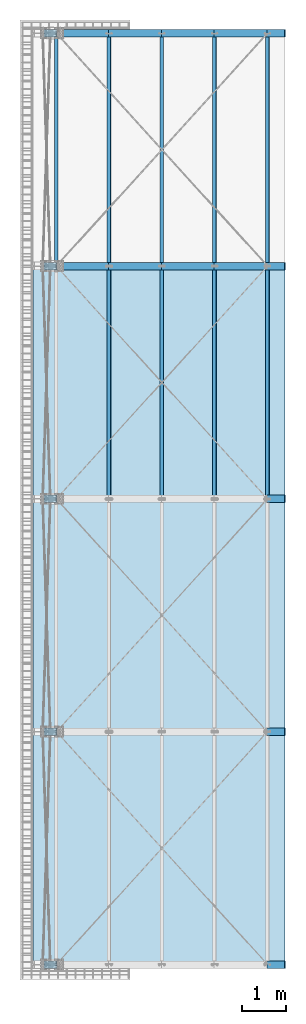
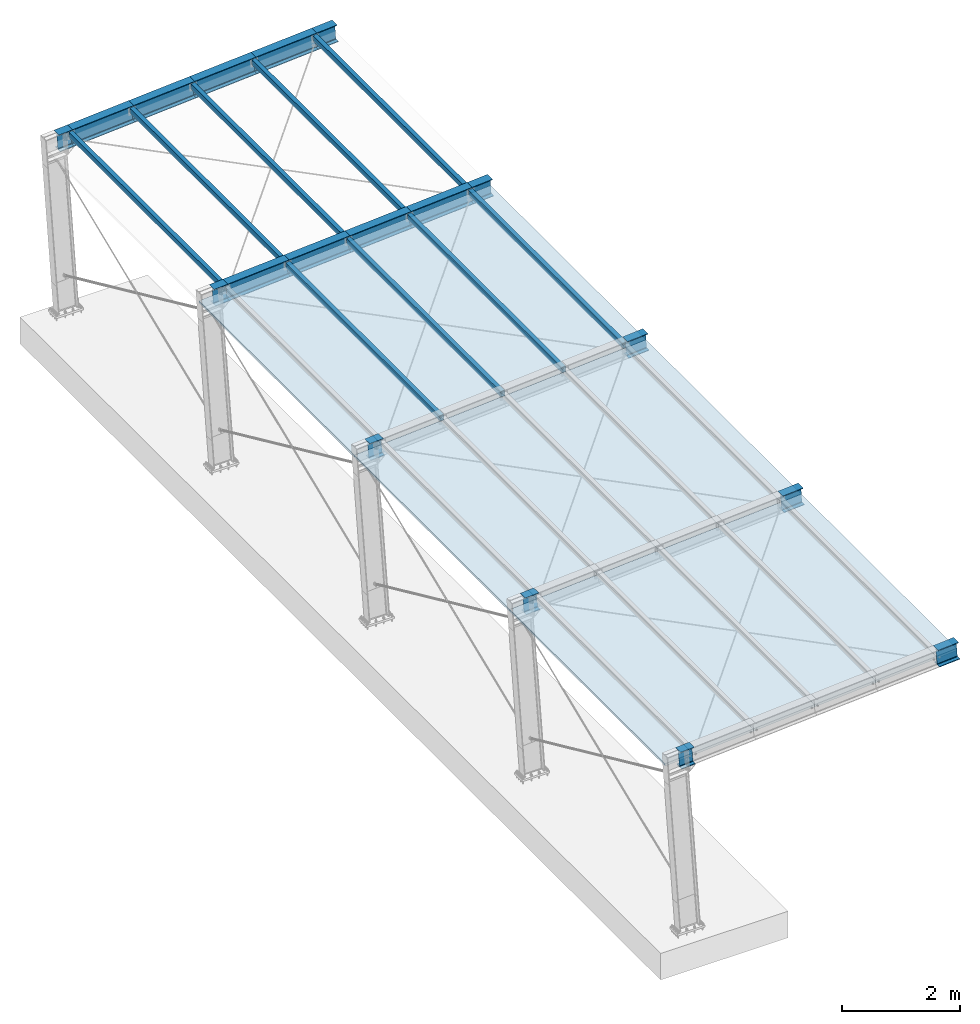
# One storey, part 2 of 72: 27 beams, 18 slabs.
"""IFC4 building model written with IfcOpenShell, lengths in metres."""

from ifc_helpers import new_model, si_unit, frame, frame_2d, origin_with_axes, place, context, project, spatial, polyline, hollow_rectangle, i_section, outline, extrude, clip, halfspace, material, material_profile, profile_set, profile_usage, type_object, element, save


model = new_model("IFC4")

# Units and contexts
model_context = context("Model", 3, precision=1e-05, world=origin_with_axes())
ifc_project = project(units=[si_unit("LENGTHUNIT", "METRE"), si_unit("AREAUNIT", "SQUARE_METRE"), si_unit("VOLUMEUNIT", "CUBIC_METRE"), si_unit("MASSUNIT", "GRAM", prefix="KILO"), si_unit("TIMEUNIT", "SECOND"), si_unit("PLANEANGLEUNIT", "RADIAN"), si_unit("SOLIDANGLEUNIT", "STERADIAN"), si_unit("THERMODYNAMICTEMPERATUREUNIT", "DEGREE_CELSIUS")], contexts=[model_context])

# Site, building, storey
placement_1 = place(None, origin_with_axes())
site = spatial("IfcSite", under=ifc_project, at=placement_1, Name="Italia", CompositionType="ELEMENT")
building = spatial("IfcBuilding", under=site, at=placement_1, Name="Pensilina", CompositionType="ELEMENT")
storey = spatial("IfcBuildingStorey", under=building, at=placement_1, Name="Storey 0", CompositionType="ELEMENT", Elevation=0.0)

# Beams
ifc_material_1 = material(Name="Acciaio", Category="ACCIAIO")
ifc_material_profile = material_profile(ifc_material_1, i_section(OverallWidth=0.18, OverallDepth=0.4, WebThickness=0.0086, FlangeThickness=0.0135, FilletRadius=0.021, at=frame_2d((0.0, 0.0, 0.0), x_axis=(1.0, 0.0))), Name="1 IPE400")
ifc_profile_set = profile_set([ifc_material_profile])
ifc_profile_usage_1 = profile_usage(ifc_profile_set, cardinal=5)
beam_type_1 = type_object("IfcBeamType", Name="3 IPE360", PredefinedType="BEAM", material=ifc_profile_usage_1)
placement_2 = place(placement_1, origin_with_axes())
beam_1_placement = place(placement_2, frame((0.223129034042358, 0.0, 3.601664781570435), z_axis=(0.0, 0.0, 1.0), x_axis=(1.0, 0.0, 0.0)))
element("IfcBeam", 1, at=beam_1_placement, inside=storey, type_object=beam_type_1, Name="701", context=model_context, shape_type="Clipping", body=[
    clip(extrude(i_section(OverallWidth=0.17, OverallDepth=0.36, WebThickness=0.008, FlangeThickness=0.0127, FilletRadius=0.018, at=frame_2d((0.0, 0.0, 0.0), x_axis=(1.0, 0.0))), frame((0.0, 0.0, 0.0), z_axis=(0.997648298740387, 0.0, 0.068540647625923), x_axis=(0.0, 1.0, 0.0)), (0.0, 0.0, 1.0), 0.8025), halfspace(frame((0.533739, 0.0, 0.0366695), z_axis=(-0.997649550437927, 0.0, -0.068522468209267), x_axis=(0.0, -1.0, 0.0)), False)),
])
ifc_profile_usage_2 = profile_usage(ifc_profile_set, cardinal=5)
beam_type_2 = type_object("IfcBeamType", Name="3 IPE360", PredefinedType="BEAM", material=ifc_profile_usage_2)
beam_2_placement = place(placement_2, origin_with_axes())
element("IfcBeam", 2, at=beam_2_placement, inside=storey, type_object=beam_type_2, Name="701", context=model_context, shape_type="SweptSolid", body=[
    extrude(i_section(OverallWidth=0.17, OverallDepth=0.36, WebThickness=0.008, FlangeThickness=0.0127, FilletRadius=0.018, at=frame_2d((0.0, 0.0, 0.0), x_axis=(1.0, 0.0))), frame((5.81251, 0.0, 3.98567), z_axis=(0.997648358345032, 0.0, 0.068540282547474), x_axis=(0.0, 1.0, 0.0)), (0.0, 0.0, 1.0), 0.399981),
])
ifc_profile_usage_3 = profile_usage(ifc_profile_set, cardinal=5)
beam_type_3 = type_object("IfcBeamType", Name="3 IPE360", PredefinedType="BEAM", material=ifc_profile_usage_3)
beam_3_placement = place(placement_2, frame((0.223129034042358, 5.28000020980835, 3.601664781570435), z_axis=(0.0, 0.0, 1.0), x_axis=(1.0, 0.0, 0.0)))
element("IfcBeam", 3, at=beam_3_placement, inside=storey, type_object=beam_type_3, Name="702", context=model_context, shape_type="Clipping", body=[
    clip(extrude(i_section(OverallWidth=0.17, OverallDepth=0.36, WebThickness=0.008, FlangeThickness=0.0127, FilletRadius=0.018, at=frame_2d((0.0, 0.0, 0.0), x_axis=(1.0, 0.0))), frame((0.0, 0.0, 0.0), z_axis=(0.997648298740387, 0.0, 0.068540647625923), x_axis=(0.0, 1.0, 0.0)), (0.0, 0.0, 1.0), 0.8025), halfspace(frame((0.533739, 0.0, 0.0366695), z_axis=(-0.997649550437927, 0.0, -0.068522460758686), x_axis=(0.0, -1.0, 0.0)), False)),
])
ifc_profile_usage_4 = profile_usage(ifc_profile_set, cardinal=5)
beam_type_4 = type_object("IfcBeamType", Name="3 IPE360", PredefinedType="BEAM", material=ifc_profile_usage_4)
beam_4_placement = place(placement_2, origin_with_axes())
element("IfcBeam", 4, at=beam_4_placement, inside=storey, type_object=beam_type_4, Name="702", context=model_context, shape_type="SweptSolid", body=[
    extrude(i_section(OverallWidth=0.17, OverallDepth=0.36, WebThickness=0.008, FlangeThickness=0.0127, FilletRadius=0.018, at=frame_2d((0.0, 0.0, 0.0), x_axis=(1.0, 0.0))), frame((5.81251, 5.28, 3.98567), z_axis=(0.997648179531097, 0.0, 0.068542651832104), x_axis=(0.0, 1.0, 0.0)), (0.0, 0.0, 1.0), 0.399981),
])
ifc_profile_usage_5 = profile_usage(ifc_profile_set, cardinal=5)
beam_type_5 = type_object("IfcBeamType", Name="3 IPE360", PredefinedType="BEAM", material=ifc_profile_usage_5)
beam_5_placement = place(placement_2, frame((0.223129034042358, 10.559999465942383, 3.601664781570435), z_axis=(0.0, 0.0, 1.0), x_axis=(1.0, 0.0, 0.0)))
element("IfcBeam", 5, at=beam_5_placement, inside=storey, type_object=beam_type_5, Name="703", context=model_context, shape_type="Clipping", body=[
    clip(extrude(i_section(OverallWidth=0.17, OverallDepth=0.36, WebThickness=0.008, FlangeThickness=0.0127, FilletRadius=0.018, at=frame_2d((0.0, 0.0, 0.0), x_axis=(1.0, 0.0))), frame((0.0, 0.0, 0.0), z_axis=(0.997648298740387, 0.0, 0.068540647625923), x_axis=(0.0, 1.0, 0.0)), (0.0, 0.0, 1.0), 0.8025), halfspace(frame((0.533739, 0.0, 0.0366695), z_axis=(-0.997649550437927, 0.0, -0.068522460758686), x_axis=(0.0, -1.0, 0.0)), False)),
])
ifc_profile_usage_6 = profile_usage(ifc_profile_set, cardinal=5)
beam_type_6 = type_object("IfcBeamType", Name="3 IPE360", PredefinedType="BEAM", material=ifc_profile_usage_6)
beam_6_placement = place(placement_2, origin_with_axes())
element("IfcBeam", 6, at=beam_6_placement, inside=storey, type_object=beam_type_6, Name="703", context=model_context, shape_type="SweptSolid", body=[
    extrude(i_section(OverallWidth=0.17, OverallDepth=0.36, WebThickness=0.008, FlangeThickness=0.0127, FilletRadius=0.018, at=frame_2d((0.0, 0.0, 0.0), x_axis=(1.0, 0.0))), frame((5.81251, 10.56, 3.98567), z_axis=(0.997648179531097, 0.0, 0.068542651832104), x_axis=(0.0, 1.0, 0.0)), (0.0, 0.0, 1.0), 0.399981),
])
ifc_profile_usage_7 = profile_usage(ifc_profile_set, cardinal=5)
beam_type_7 = type_object("IfcBeamType", Name="3 IPE360", PredefinedType="BEAM", material=ifc_profile_usage_7)
beam_7_placement = place(placement_2, frame((0.223129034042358, 15.84000015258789, 3.601664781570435), z_axis=(0.0, 0.0, 1.0), x_axis=(1.0, 0.0, 0.0)))
element("IfcBeam", 7, at=beam_7_placement, inside=storey, type_object=beam_type_7, Name="704", context=model_context, shape_type="Clipping", body=[
    clip(extrude(i_section(OverallWidth=0.17, OverallDepth=0.36, WebThickness=0.008, FlangeThickness=0.0127, FilletRadius=0.018, at=frame_2d((0.0, 0.0, 0.0), x_axis=(1.0, 0.0))), frame((0.0, 0.0, 0.0), z_axis=(0.997648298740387, 0.0, 0.068540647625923), x_axis=(0.0, 1.0, 0.0)), (0.0, 0.0, 1.0), 0.8025), halfspace(frame((0.533739, 0.0, 0.0366695), z_axis=(-0.997649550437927, 0.0, -0.068522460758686), x_axis=(0.0, -1.0, 0.0)), False)),
])
ifc_profile_usage_8 = profile_usage(ifc_profile_set, cardinal=5)
beam_type_8 = type_object("IfcBeamType", Name="3 IPE360", PredefinedType="BEAM", material=ifc_profile_usage_8)
beam_8_placement = place(placement_2, origin_with_axes())
element("IfcBeam", 8, at=beam_8_placement, inside=storey, type_object=beam_type_8, Name="704", context=model_context, shape_type="SweptSolid", body=[
    extrude(i_section(OverallWidth=0.17, OverallDepth=0.36, WebThickness=0.008, FlangeThickness=0.0127, FilletRadius=0.018, at=frame_2d((0.0, 0.0, 0.0), x_axis=(1.0, 0.0))), frame((2.22096, 15.84, 3.73892), z_axis=(0.997648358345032, 0.0, 0.068540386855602), x_axis=(0.0, 1.0, 0.0)), (0.0, 0.0, 1.0), 1.19995),
])
ifc_profile_usage_9 = profile_usage(ifc_profile_set, cardinal=5)
beam_type_9 = type_object("IfcBeamType", Name="3 IPE360", PredefinedType="BEAM", material=ifc_profile_usage_9)
beam_9_placement = place(placement_2, origin_with_axes())
element("IfcBeam", 9, at=beam_9_placement, inside=storey, type_object=beam_type_9, Name="704", context=model_context, shape_type="SweptSolid", body=[
    extrude(i_section(OverallWidth=0.17, OverallDepth=0.36, WebThickness=0.008, FlangeThickness=0.0127, FilletRadius=0.018, at=frame_2d((0.0, 0.0, 0.0), x_axis=(1.0, 0.0))), frame((3.41809, 15.84, 3.82117), z_axis=(0.997648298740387, 0.0, 0.068541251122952), x_axis=(0.0, 1.0, 0.0)), (0.0, 0.0, 1.0), 1.20003),
])
ifc_profile_usage_10 = profile_usage(ifc_profile_set, cardinal=5)
beam_type_10 = type_object("IfcBeamType", Name="3 IPE360", PredefinedType="BEAM", material=ifc_profile_usage_10)
beam_10_placement = place(placement_2, origin_with_axes())
element("IfcBeam", 10, at=beam_10_placement, inside=storey, type_object=beam_type_10, Name="704", context=model_context, shape_type="SweptSolid", body=[
    extrude(i_section(OverallWidth=0.17, OverallDepth=0.36, WebThickness=0.008, FlangeThickness=0.0127, FilletRadius=0.018, at=frame_2d((0.0, 0.0, 0.0), x_axis=(1.0, 0.0))), frame((4.6153, 15.84, 3.90342), z_axis=(0.997648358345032, 0.0, 0.068540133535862), x_axis=(0.0, 1.0, 0.0)), (0.0, 0.0, 1.0), 1.20003),
])
ifc_profile_usage_11 = profile_usage(ifc_profile_set, cardinal=5)
beam_type_11 = type_object("IfcBeamType", Name="3 IPE360", PredefinedType="BEAM", material=ifc_profile_usage_11)
beam_11_placement = place(placement_2, origin_with_axes())
element("IfcBeam", 11, at=beam_11_placement, inside=storey, type_object=beam_type_11, Name="704", context=model_context, shape_type="SweptSolid", body=[
    extrude(i_section(OverallWidth=0.17, OverallDepth=0.36, WebThickness=0.008, FlangeThickness=0.0127, FilletRadius=0.018, at=frame_2d((0.0, 0.0, 0.0), x_axis=(1.0, 0.0))), frame((5.81251, 15.84, 3.98567), z_axis=(0.997648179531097, 0.0, 0.068542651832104), x_axis=(0.0, 1.0, 0.0)), (0.0, 0.0, 1.0), 0.399981),
])
ifc_profile_usage_12 = profile_usage(ifc_profile_set, cardinal=5)
beam_type_12 = type_object("IfcBeamType", Name="9 RHS120x80x5", PredefinedType="BEAM", material=ifc_profile_usage_12)
beam_12_placement = place(placement_2, frame((2.218269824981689, 7.920000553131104, 3.778831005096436), z_axis=(0.0, 0.0, 1.0), x_axis=(1.0, 0.0, 0.0)))
element("IfcBeam", 12, at=beam_12_placement, inside=storey, type_object=beam_type_12, Name="307", context=model_context, shape_type="Clipping", body=[
    clip(clip(extrude(hollow_rectangle(XDim=0.08, YDim=0.12, WallThickness=0.005, at=frame_2d((0.0, 0.0, 0.0), x_axis=(0.997731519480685, -0.067318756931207))), frame((0.0, 0.0, 0.0), z_axis=(0.0, 1.0, 0.0), x_axis=(-1.0, 0.0, 0.0)), (0.0, 0.0, 1.0), 10.56), halfspace(frame((-0.00825715, 2.659, 0.0109689), z_axis=(0.0, -1.0, 0.0), x_axis=(1.0, 0.0, 0.0)), False)), halfspace(frame((-0.00825715, 7.896, 0.0109689), z_axis=(0.0, -1.0, 0.0), x_axis=(1.0, 0.0, 0.0)), True)),
])
ifc_profile_usage_13 = profile_usage(ifc_profile_set, cardinal=5)
beam_type_13 = type_object("IfcBeamType", Name="9 RHS120x80x5", PredefinedType="BEAM", material=ifc_profile_usage_13)
beam_13_placement = place(placement_2, frame((3.415399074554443, 7.920000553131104, 3.861075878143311), z_axis=(0.0, 0.0, 1.0), x_axis=(1.0, 0.0, 0.0)))
element("IfcBeam", 13, at=beam_13_placement, inside=storey, type_object=beam_type_13, Name="408", context=model_context, shape_type="Clipping", body=[
    clip(clip(extrude(hollow_rectangle(XDim=0.08, YDim=0.12, WallThickness=0.005, at=frame_2d((0.0, 0.0, 0.0), x_axis=(0.997731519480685, -0.067318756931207))), frame((0.0, 0.0, 0.0), z_axis=(0.0, 1.0, 0.0), x_axis=(-1.0, 0.0, 0.0)), (0.0, 0.0, 1.0), 10.56), halfspace(frame((-0.00825691, 2.659, 0.0109692), z_axis=(0.0, -1.0, 0.0), x_axis=(1.0, 0.0, 0.0)), False)), halfspace(frame((-0.00825691, 7.901, 0.0109692), z_axis=(0.0, -1.0, 0.0), x_axis=(1.0, 0.0, 0.0)), True)),
])
ifc_profile_usage_14 = profile_usage(ifc_profile_set, cardinal=5)
beam_type_14 = type_object("IfcBeamType", Name="9 RHS120x80x5", PredefinedType="BEAM", material=ifc_profile_usage_14)
beam_14_placement = place(placement_2, frame((4.612606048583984, 7.920000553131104, 3.9433274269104), z_axis=(0.0, 0.0, 1.0), x_axis=(1.0, 0.0, 0.0)))
element("IfcBeam", 14, at=beam_14_placement, inside=storey, type_object=beam_type_14, Name="509", context=model_context, shape_type="Clipping", body=[
    clip(clip(extrude(hollow_rectangle(XDim=0.08, YDim=0.12, WallThickness=0.005, at=frame_2d((0.0, 0.0, 0.0), x_axis=(0.997731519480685, -0.067318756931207))), frame((0.0, 0.0, 0.0), z_axis=(0.0, 1.0, 0.0), x_axis=(-1.0, 0.0, 0.0)), (0.0, 0.0, 1.0), 10.56), halfspace(frame((-0.00825739, 2.659, 0.0109689), z_axis=(0.0, -1.0, 0.0), x_axis=(1.0, 0.0, 0.0)), False)), halfspace(frame((-0.00825739, 7.901, 0.0109689), z_axis=(0.0, -1.0, 0.0), x_axis=(1.0, 0.0, 0.0)), True)),
])
ifc_profile_usage_15 = profile_usage(ifc_profile_set, cardinal=5)
beam_type_15 = type_object("IfcBeamType", Name="9 RHS120x80x5", PredefinedType="BEAM", material=ifc_profile_usage_15)
beam_15_placement = place(placement_2, frame((5.809812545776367, 7.920000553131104, 4.025577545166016), z_axis=(0.0, 0.0, 1.0), x_axis=(1.0, 0.0, 0.0)))
element("IfcBeam", 15, at=beam_15_placement, inside=storey, type_object=beam_type_15, Name="610", context=model_context, shape_type="Clipping", body=[
    clip(clip(extrude(hollow_rectangle(XDim=0.08, YDim=0.12, WallThickness=0.005, at=frame_2d((0.0, 0.0, 0.0), x_axis=(0.997731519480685, -0.067318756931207))), frame((0.0, 0.0, 0.0), z_axis=(0.0, 1.0, 0.0), x_axis=(-1.0, 0.0, 0.0)), (0.0, 0.0, 1.0), 10.56), halfspace(frame((-0.00825691, 2.659, 0.0109687), z_axis=(0.0, -1.0, 0.0), x_axis=(1.0, 0.0, 0.0)), False)), halfspace(frame((-0.00825691, 7.901, 0.0109687), z_axis=(0.0, -1.0, 0.0), x_axis=(1.0, 0.0, 0.0)), True)),
])
ifc_profile_usage_16 = profile_usage(ifc_profile_set, cardinal=5)
beam_type_16 = type_object("IfcBeamType", Name="3 IPE360", PredefinedType="BEAM", material=ifc_profile_usage_16)
beam_16_placement = place(placement_2, frame((0.223129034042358, 21.1200008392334, 3.601664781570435), z_axis=(0.0, 0.0, 1.0), x_axis=(1.0, 0.0, 0.0)))
element("IfcBeam", 16, at=beam_16_placement, inside=storey, type_object=beam_type_16, Name="705", context=model_context, shape_type="Clipping", body=[
    clip(extrude(i_section(OverallWidth=0.17, OverallDepth=0.36, WebThickness=0.008, FlangeThickness=0.0127, FilletRadius=0.018, at=frame_2d((0.0, 0.0, 0.0), x_axis=(1.0, 0.0))), frame((0.0, 0.0, 0.0), z_axis=(0.997648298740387, 0.0, 0.068540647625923), x_axis=(0.0, 1.0, 0.0)), (0.0, 0.0, 1.0), 0.8025), halfspace(frame((0.533739, 0.0, 0.0366695), z_axis=(-0.997649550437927, 0.0, -0.068522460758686), x_axis=(0.0, -1.0, 0.0)), False)),
])
ifc_profile_usage_17 = profile_usage(ifc_profile_set, cardinal=5)
beam_type_17 = type_object("IfcBeamType", Name="3 IPE360", PredefinedType="BEAM", material=ifc_profile_usage_17)
beam_17_placement = place(placement_2, origin_with_axes())
element("IfcBeam", 17, at=beam_17_placement, inside=storey, type_object=beam_type_17, Name="705", context=model_context, shape_type="SweptSolid", body=[
    extrude(i_section(OverallWidth=0.17, OverallDepth=0.36, WebThickness=0.008, FlangeThickness=0.0127, FilletRadius=0.018, at=frame_2d((0.0, 0.0, 0.0), x_axis=(1.0, 0.0))), frame((2.22096, 21.12, 3.73892), z_axis=(0.997648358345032, 0.0, 0.068540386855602), x_axis=(0.0, 1.0, 0.0)), (0.0, 0.0, 1.0), 1.19995),
])
ifc_profile_usage_18 = profile_usage(ifc_profile_set, cardinal=5)
beam_type_18 = type_object("IfcBeamType", Name="3 IPE360", PredefinedType="BEAM", material=ifc_profile_usage_18)
beam_18_placement = place(placement_2, origin_with_axes())
element("IfcBeam", 18, at=beam_18_placement, inside=storey, type_object=beam_type_18, Name="705", context=model_context, shape_type="SweptSolid", body=[
    extrude(i_section(OverallWidth=0.17, OverallDepth=0.36, WebThickness=0.008, FlangeThickness=0.0127, FilletRadius=0.018, at=frame_2d((0.0, 0.0, 0.0), x_axis=(1.0, 0.0))), frame((3.41809, 21.12, 3.82117), z_axis=(0.997648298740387, 0.0, 0.068541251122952), x_axis=(0.0, 1.0, 0.0)), (0.0, 0.0, 1.0), 1.20003),
])
ifc_profile_usage_19 = profile_usage(ifc_profile_set, cardinal=5)
beam_type_19 = type_object("IfcBeamType", Name="3 IPE360", PredefinedType="BEAM", material=ifc_profile_usage_19)
beam_19_placement = place(placement_2, origin_with_axes())
element("IfcBeam", 19, at=beam_19_placement, inside=storey, type_object=beam_type_19, Name="705", context=model_context, shape_type="SweptSolid", body=[
    extrude(i_section(OverallWidth=0.17, OverallDepth=0.36, WebThickness=0.008, FlangeThickness=0.0127, FilletRadius=0.018, at=frame_2d((0.0, 0.0, 0.0), x_axis=(1.0, 0.0))), frame((4.6153, 21.12, 3.90342), z_axis=(0.997648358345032, 0.0, 0.068540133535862), x_axis=(0.0, 1.0, 0.0)), (0.0, 0.0, 1.0), 1.20003),
])
ifc_profile_usage_20 = profile_usage(ifc_profile_set, cardinal=5)
beam_type_20 = type_object("IfcBeamType", Name="3 IPE360", PredefinedType="BEAM", material=ifc_profile_usage_20)
beam_20_placement = place(placement_2, origin_with_axes())
element("IfcBeam", 20, at=beam_20_placement, inside=storey, type_object=beam_type_20, Name="705", context=model_context, shape_type="SweptSolid", body=[
    extrude(i_section(OverallWidth=0.17, OverallDepth=0.36, WebThickness=0.008, FlangeThickness=0.0127, FilletRadius=0.018, at=frame_2d((0.0, 0.0, 0.0), x_axis=(1.0, 0.0))), frame((5.81251, 21.12, 3.98567), z_axis=(0.997648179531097, 0.0, 0.068542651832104), x_axis=(0.0, 1.0, 0.0)), (0.0, 0.0, 1.0), 0.399981),
])
ifc_profile_usage_21 = profile_usage(ifc_profile_set, cardinal=5)
beam_type_21 = type_object("IfcBeamType", Name="9 RHS120x80x5", PredefinedType="BEAM", material=ifc_profile_usage_21)
beam_21_placement = place(placement_2, frame((2.218269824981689, 13.200000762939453, 3.778831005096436), z_axis=(0.0, 0.0, 1.0), x_axis=(1.0, 0.0, 0.0)))
element("IfcBeam", 21, at=beam_21_placement, inside=storey, type_object=beam_type_21, Name="307", context=model_context, shape_type="Clipping", body=[
    clip(clip(extrude(hollow_rectangle(XDim=0.08, YDim=0.12, WallThickness=0.005, at=frame_2d((0.0, 0.0, 0.0), x_axis=(0.997731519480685, -0.067318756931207))), frame((0.0, 0.0, 0.0), z_axis=(0.0, 1.0, 0.0), x_axis=(-1.0, 0.0, 0.0)), (0.0, 0.0, 1.0), 10.56), halfspace(frame((-0.00825715, 2.664, 0.0109689), z_axis=(0.0, -1.0, 0.0), x_axis=(1.0, 0.0, 0.0)), False)), halfspace(frame((-0.00825715, 7.906, 0.0109689), z_axis=(0.0, -1.0, 0.0), x_axis=(1.0, 0.0, 0.0)), True)),
])
ifc_profile_usage_22 = profile_usage(ifc_profile_set, cardinal=5)
beam_type_22 = type_object("IfcBeamType", Name="9 RHS120x80x5", PredefinedType="BEAM", material=ifc_profile_usage_22)
beam_22_placement = place(placement_2, frame((3.415399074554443, 13.200000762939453, 3.861075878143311), z_axis=(0.0, 0.0, 1.0), x_axis=(1.0, 0.0, 0.0)))
element("IfcBeam", 22, at=beam_22_placement, inside=storey, type_object=beam_type_22, Name="408", context=model_context, shape_type="Clipping", body=[
    clip(clip(extrude(hollow_rectangle(XDim=0.08, YDim=0.12, WallThickness=0.005, at=frame_2d((0.0, 0.0, 0.0), x_axis=(0.997731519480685, -0.067318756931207))), frame((0.0, 0.0, 0.0), z_axis=(0.0, 1.0, 0.0), x_axis=(-1.0, 0.0, 0.0)), (0.0, 0.0, 1.0), 10.56), halfspace(frame((-0.00825691, 2.659, 0.0109692), z_axis=(0.0, -1.0, 0.0), x_axis=(1.0, 0.0, 0.0)), False)), halfspace(frame((-0.00825691, 7.906, 0.0109692), z_axis=(0.0, -1.0, 0.0), x_axis=(1.0, 0.0, 0.0)), True)),
])
ifc_profile_usage_23 = profile_usage(ifc_profile_set, cardinal=5)
beam_type_23 = type_object("IfcBeamType", Name="9 RHS120x80x5", PredefinedType="BEAM", material=ifc_profile_usage_23)
beam_23_placement = place(placement_2, frame((4.612606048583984, 13.200000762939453, 3.9433274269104), z_axis=(0.0, 0.0, 1.0), x_axis=(1.0, 0.0, 0.0)))
element("IfcBeam", 23, at=beam_23_placement, inside=storey, type_object=beam_type_23, Name="509", context=model_context, shape_type="Clipping", body=[
    clip(clip(extrude(hollow_rectangle(XDim=0.08, YDim=0.12, WallThickness=0.005, at=frame_2d((0.0, 0.0, 0.0), x_axis=(0.997731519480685, -0.067318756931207))), frame((0.0, 0.0, 0.0), z_axis=(0.0, 1.0, 0.0), x_axis=(-1.0, 0.0, 0.0)), (0.0, 0.0, 1.0), 10.56), halfspace(frame((-0.00825739, 2.659, 0.0109689), z_axis=(0.0, -1.0, 0.0), x_axis=(1.0, 0.0, 0.0)), False)), halfspace(frame((-0.00825739, 7.906, 0.0109689), z_axis=(0.0, -1.0, 0.0), x_axis=(1.0, 0.0, 0.0)), True)),
])
ifc_profile_usage_24 = profile_usage(ifc_profile_set, cardinal=5)
beam_type_24 = type_object("IfcBeamType", Name="9 RHS120x80x5", PredefinedType="BEAM", material=ifc_profile_usage_24)
beam_24_placement = place(placement_2, frame((5.809812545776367, 13.200000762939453, 4.025577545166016), z_axis=(0.0, 0.0, 1.0), x_axis=(1.0, 0.0, 0.0)))
element("IfcBeam", 24, at=beam_24_placement, inside=storey, type_object=beam_type_24, Name="610", context=model_context, shape_type="Clipping", body=[
    clip(clip(extrude(hollow_rectangle(XDim=0.08, YDim=0.12, WallThickness=0.005, at=frame_2d((0.0, 0.0, 0.0), x_axis=(0.997731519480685, -0.067318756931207))), frame((0.0, 0.0, 0.0), z_axis=(0.0, 1.0, 0.0), x_axis=(-1.0, 0.0, 0.0)), (0.0, 0.0, 1.0), 10.56), halfspace(frame((-0.00825691, 2.659, 0.0109687), z_axis=(0.0, -1.0, 0.0), x_axis=(1.0, 0.0, 0.0)), False)), halfspace(frame((-0.00825691, 7.906, 0.0109687), z_axis=(0.0, -1.0, 0.0), x_axis=(1.0, 0.0, 0.0)), True)),
])
ifc_profile_usage_25 = profile_usage(ifc_profile_set, cardinal=5)
beam_type_25 = type_object("IfcBeamType", Name="3 IPE360", PredefinedType="BEAM", material=ifc_profile_usage_25)
beam_25_placement = place(placement_2, origin_with_axes())
element("IfcBeam", 25, at=beam_25_placement, inside=storey, type_object=beam_type_25, Name="704", context=model_context, shape_type="SweptSolid", body=[
    extrude(i_section(OverallWidth=0.17, OverallDepth=0.36, WebThickness=0.008, FlangeThickness=0.0127, FilletRadius=0.018, at=frame_2d((0.0, 0.0, 0.0), x_axis=(1.0, 0.0))), frame((1.02374, 15.84, 3.65667), z_axis=(0.997648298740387, 0.0, 0.068541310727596), x_axis=(0.0, 1.0, 0.0)), (0.0, 0.0, 1.0), 1.20004),
])
ifc_profile_usage_26 = profile_usage(ifc_profile_set, cardinal=5)
beam_type_26 = type_object("IfcBeamType", Name="3 IPE360", PredefinedType="BEAM", material=ifc_profile_usage_26)
beam_26_placement = place(placement_2, origin_with_axes())
element("IfcBeam", 26, at=beam_26_placement, inside=storey, type_object=beam_type_26, Name="705", context=model_context, shape_type="SweptSolid", body=[
    extrude(i_section(OverallWidth=0.17, OverallDepth=0.36, WebThickness=0.008, FlangeThickness=0.0127, FilletRadius=0.018, at=frame_2d((0.0, 0.0, 0.0), x_axis=(1.0, 0.0))), frame((1.02374, 21.12, 3.65667), z_axis=(0.997648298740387, 0.0, 0.068541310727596), x_axis=(0.0, 1.0, 0.0)), (0.0, 0.0, 1.0), 1.20004),
])
ifc_profile_usage_27 = profile_usage(ifc_profile_set, cardinal=5)
beam_type_27 = type_object("IfcBeamType", Name="9 RHS120x80x5", PredefinedType="BEAM", material=ifc_profile_usage_27)
beam_27_placement = place(placement_2, frame((1.02104926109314, 13.200000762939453, 3.696578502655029), z_axis=(0.0, 0.0, 1.0), x_axis=(1.0, 0.0, 0.0)))
element("IfcBeam", 27, at=beam_27_placement, inside=storey, type_object=beam_type_27, Name="206", context=model_context, shape_type="Clipping", body=[
    clip(clip(extrude(hollow_rectangle(XDim=0.08, YDim=0.12, WallThickness=0.005, at=frame_2d((0.0, 0.0, 0.0), x_axis=(0.997731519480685, -0.067318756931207))), frame((0.0, 0.0, 0.0), z_axis=(0.0, 1.0, 0.0), x_axis=(-1.0, 0.0, 0.0)), (0.0, 0.0, 1.0), 10.56), halfspace(frame((-0.00825727, 2.659, 0.0109689), z_axis=(0.0, -1.0, 0.0), x_axis=(1.0, 0.0, 0.0)), False)), halfspace(frame((-0.00825727, 7.906, 0.0109689), z_axis=(0.0, -1.0, 0.0), x_axis=(1.0, 0.0, 0.0)), True)),
])

# Slabs
ifc_material_2 = material(Name="CEMENTO ARMATO", Category="CEMENTO ARMATO")
slab_type_1 = type_object("IfcSlabType", Name="1 Tettoia", PredefinedType="FLOOR", material=ifc_material_2)
slab_1_placement = place(placement_2, origin_with_axes())
element("IfcSlab", 28, at=slab_1_placement, inside=storey, type_object=slab_type_1, Name="400", context=model_context, shape_type="SweptSolid", body=[
    extrude(outline(polyline([(0.0, 0.0, 0.0), (-1.57365e-06, 1.19995, 0.0), (5.28, 1.19996, 0.0), (5.28, 7.15256e-06, 0.0), (0.0, 0.0, 0.0)])), frame((2.22096, 0.0, 3.73892), z_axis=(0.068540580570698, 9.00977e-08, -0.997648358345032), x_axis=(-1.314516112e-06, 1.0, 0.0)), (0.0, 0.0, 1.0), 0.05),
])
ifc_material_3 = material(Name="CEMENTO ARMATO", Category="CEMENTO ARMATO")
slab_type_2 = type_object("IfcSlabType", Name="1 Tettoia", PredefinedType="FLOOR", material=ifc_material_3)
slab_2_placement = place(placement_2, origin_with_axes())
element("IfcSlab", 29, at=slab_2_placement, inside=storey, type_object=slab_type_2, Name="500", context=model_context, shape_type="SweptSolid", body=[
    extrude(outline(polyline([(0.0, 0.0, 0.0), (-1.57375e-06, 1.20003, 0.0), (5.28, 1.20004, 0.0), (5.28, 6.91414e-06, 0.0), (0.0, 0.0, 0.0)])), frame((3.41809, 0.0, 3.82117), z_axis=(0.068540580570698, 9.0097686e-08, -0.997648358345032), x_axis=(-1.314515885e-06, 1.0, 0.0)), (0.0, 0.0, 1.0), 0.05),
])
ifc_material_4 = material(Name="CEMENTO ARMATO", Category="CEMENTO ARMATO")
slab_type_3 = type_object("IfcSlabType", Name="1 Tettoia", PredefinedType="FLOOR", material=ifc_material_4)
slab_3_placement = place(placement_2, origin_with_axes())
element("IfcSlab", 30, at=slab_3_placement, inside=storey, type_object=slab_type_3, Name="600", context=model_context, shape_type="SweptSolid", body=[
    extrude(outline(polyline([(0.0, 0.0, 0.0), (-8.94994e-07, 1.20003, 0.0), (5.28, 1.20003, 0.0), (5.28, 3.8147e-06, 0.0), (0.0, 0.0, 0.0)])), frame((4.6153, 0.0, 3.90342), z_axis=(0.068540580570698, 5.1238747e-08, -0.997648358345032), x_axis=(-7.47568038e-07, 1.0, 0.0)), (0.0, 0.0, 1.0), 0.05),
])
ifc_material_5 = material(Name="CEMENTO ARMATO", Category="CEMENTO ARMATO")
slab_type_4 = type_object("IfcSlabType", Name="1 Tettoia", PredefinedType="FLOOR", material=ifc_material_5)
slab_4_placement = place(placement_2, origin_with_axes())
element("IfcSlab", 31, at=slab_4_placement, inside=storey, type_object=slab_type_4, Name="200", context=model_context, shape_type="SweptSolid", body=[
    extrude(outline(polyline([(0.0, 0.0, 0.0), (0.0, 0.535, 0.0), (5.28, 0.535, 0.0), (5.28, 0.0, 0.0), (0.0, 0.0, 0.0)])), frame((0.49, 10.56, 3.62), z_axis=(0.068540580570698, 0.0, -0.997648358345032), x_axis=(0.0, 1.0, 0.0)), (0.0, 0.0, 1.0), 0.05),
])
ifc_material_6 = material(Name="CEMENTO ARMATO", Category="CEMENTO ARMATO")
slab_type_5 = type_object("IfcSlabType", Name="1 Tettoia", PredefinedType="FLOOR", material=ifc_material_6)
slab_5_placement = place(placement_2, origin_with_axes())
element("IfcSlab", 32, at=slab_5_placement, inside=storey, type_object=slab_type_5, Name="300", context=model_context, shape_type="SweptSolid", body=[
    extrude(outline(polyline([(0.0, 0.0, 0.0), (-7.86883e-07, 1.20004, 0.0), (5.28, 1.20005, 0.0), (5.28, 3.45707e-06, 0.0), (0.0, 0.0, 0.0)])), frame((1.02374, 0.0, 3.65667), z_axis=(0.068540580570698, 4.5048843e-08, -0.997648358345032), x_axis=(-6.57257942e-07, 1.0, 0.0)), (0.0, 0.0, 1.0), 0.05),
])
ifc_material_7 = material(Name="CEMENTO ARMATO", Category="CEMENTO ARMATO")
slab_type_6 = type_object("IfcSlabType", Name="1 Tettoia", PredefinedType="FLOOR", material=ifc_material_7)
slab_6_placement = place(placement_2, origin_with_axes())
element("IfcSlab", 33, at=slab_6_placement, inside=storey, type_object=slab_type_6, Name="401", context=model_context, shape_type="SweptSolid", body=[
    extrude(outline(polyline([(0.0, 0.0, 0.0), (0.0, 1.19995, 0.0), (5.28, 1.19995, 0.0), (5.28, 0.0, 0.0), (0.0, 0.0, 0.0)])), frame((2.22096, 5.28, 3.73892), z_axis=(0.068540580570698, 0.0, -0.997648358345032), x_axis=(0.0, 1.0, 0.0)), (0.0, 0.0, 1.0), 0.05),
])
ifc_material_8 = material(Name="CEMENTO ARMATO", Category="CEMENTO ARMATO")
slab_type_7 = type_object("IfcSlabType", Name="1 Tettoia", PredefinedType="FLOOR", material=ifc_material_8)
slab_7_placement = place(placement_2, origin_with_axes())
element("IfcSlab", 34, at=slab_7_placement, inside=storey, type_object=slab_type_7, Name="501", context=model_context, shape_type="SweptSolid", body=[
    extrude(outline(polyline([(0.0, 0.0, 0.0), (0.0, 1.20003, 0.0), (5.28, 1.20003, 0.0), (5.28, 0.0, 0.0), (0.0, 0.0, 0.0)])), frame((3.41809, 5.28, 3.82117), z_axis=(0.068540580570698, 0.0, -0.997648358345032), x_axis=(0.0, 1.0, 0.0)), (0.0, 0.0, 1.0), 0.05),
])
ifc_material_9 = material(Name="CEMENTO ARMATO", Category="CEMENTO ARMATO")
slab_type_8 = type_object("IfcSlabType", Name="1 Tettoia", PredefinedType="FLOOR", material=ifc_material_9)
slab_8_placement = place(placement_2, origin_with_axes())
element("IfcSlab", 35, at=slab_8_placement, inside=storey, type_object=slab_type_8, Name="601", context=model_context, shape_type="SweptSolid", body=[
    extrude(outline(polyline([(0.0, 0.0, 0.0), (0.0, 1.20003, 0.0), (5.28, 1.20003, 0.0), (5.28, 0.0, 0.0), (0.0, 0.0, 0.0)])), frame((4.6153, 5.28, 3.90342), z_axis=(0.068540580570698, 0.0, -0.997648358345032), x_axis=(0.0, 1.0, 0.0)), (0.0, 0.0, 1.0), 0.05),
])
ifc_material_10 = material(Name="CEMENTO ARMATO", Category="CEMENTO ARMATO")
slab_type_9 = type_object("IfcSlabType", Name="1 Tettoia", PredefinedType="FLOOR", material=ifc_material_10)
slab_9_placement = place(placement_2, origin_with_axes())
element("IfcSlab", 36, at=slab_9_placement, inside=storey, type_object=slab_type_9, Name="301", context=model_context, shape_type="SweptSolid", body=[
    extrude(outline(polyline([(0.0, 0.0, 0.0), (0.0, 1.20004, 0.0), (5.28, 1.20004, 0.0), (5.28, 0.0, 0.0), (0.0, 0.0, 0.0)])), frame((1.02374, 5.28, 3.65667), z_axis=(0.068540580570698, 0.0, -0.997648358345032), x_axis=(0.0, 1.0, 0.0)), (0.0, 0.0, 1.0), 0.05),
])
ifc_material_11 = material(Name="CEMENTO ARMATO", Category="CEMENTO ARMATO")
slab_type_10 = type_object("IfcSlabType", Name="1 Tettoia", PredefinedType="FLOOR", material=ifc_material_11)
slab_10_placement = place(placement_2, origin_with_axes())
element("IfcSlab", 37, at=slab_10_placement, inside=storey, type_object=slab_type_10, Name="402", context=model_context, shape_type="SweptSolid", body=[
    extrude(outline(polyline([(0.0, 0.0, 0.0), (0.0, 1.19995, 0.0), (5.28, 1.19995, 0.0), (5.28, 0.0, 0.0), (0.0, 0.0, 0.0)])), frame((2.22096, 10.56, 3.73892), z_axis=(0.068540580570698, 0.0, -0.997648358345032), x_axis=(0.0, 1.0, 0.0)), (0.0, 0.0, 1.0), 0.05),
])
ifc_material_12 = material(Name="CEMENTO ARMATO", Category="CEMENTO ARMATO")
slab_type_11 = type_object("IfcSlabType", Name="1 Tettoia", PredefinedType="FLOOR", material=ifc_material_12)
slab_11_placement = place(placement_2, origin_with_axes())
element("IfcSlab", 38, at=slab_11_placement, inside=storey, type_object=slab_type_11, Name="502", context=model_context, shape_type="SweptSolid", body=[
    extrude(outline(polyline([(0.0, 0.0, 0.0), (0.0, 1.20003, 0.0), (5.28, 1.20003, 0.0), (5.28, 0.0, 0.0), (0.0, 0.0, 0.0)])), frame((3.41809, 10.56, 3.82117), z_axis=(0.068540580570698, 0.0, -0.997648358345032), x_axis=(0.0, 1.0, 0.0)), (0.0, 0.0, 1.0), 0.05),
])
ifc_material_13 = material(Name="CEMENTO ARMATO", Category="CEMENTO ARMATO")
slab_type_12 = type_object("IfcSlabType", Name="1 Tettoia", PredefinedType="FLOOR", material=ifc_material_13)
slab_12_placement = place(placement_2, origin_with_axes())
element("IfcSlab", 39, at=slab_12_placement, inside=storey, type_object=slab_type_12, Name="602", context=model_context, shape_type="SweptSolid", body=[
    extrude(outline(polyline([(0.0, 0.0, 0.0), (0.0, 1.20003, 0.0), (5.28, 1.20003, 0.0), (5.28, 0.0, 0.0), (0.0, 0.0, 0.0)])), frame((4.6153, 10.56, 3.90342), z_axis=(0.068540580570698, 0.0, -0.997648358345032), x_axis=(0.0, 1.0, 0.0)), (0.0, 0.0, 1.0), 0.05),
])
ifc_material_14 = material(Name="CEMENTO ARMATO", Category="CEMENTO ARMATO")
slab_type_13 = type_object("IfcSlabType", Name="1 Tettoia", PredefinedType="FLOOR", material=ifc_material_14)
slab_13_placement = place(placement_2, origin_with_axes())
element("IfcSlab", 40, at=slab_13_placement, inside=storey, type_object=slab_type_13, Name="302", context=model_context, shape_type="SweptSolid", body=[
    extrude(outline(polyline([(0.0, 0.0, 0.0), (0.0, 1.20004, 0.0), (5.28, 1.20004, 0.0), (5.28, 0.0, 0.0), (0.0, 0.0, 0.0)])), frame((1.02374, 10.56, 3.65667), z_axis=(0.068540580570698, 0.0, -0.997648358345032), x_axis=(0.0, 1.0, 0.0)), (0.0, 0.0, 1.0), 0.05),
])
ifc_material_15 = material(Name="CEMENTO ARMATO", Category="CEMENTO ARMATO")
slab_type_14 = type_object("IfcSlabType", Name="1 Tettoia", PredefinedType="FLOOR", material=ifc_material_15)
slab_14_placement = place(placement_2, origin_with_axes())
element("IfcSlab", 41, at=slab_14_placement, inside=storey, type_object=slab_type_14, Name="202", context=model_context, shape_type="SweptSolid", body=[
    extrude(outline(polyline([(0.0, 0.0, 0.0), (0.0, 0.535, 0.0), (5.28, 0.535, 0.0), (5.28, 0.0, 0.0), (0.0, 0.0, 0.0)])), frame((0.49, 5.28, 3.62), z_axis=(0.068540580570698, 0.0, -0.997648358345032), x_axis=(0.0, 1.0, 0.0)), (0.0, 0.0, 1.0), 0.05),
])
ifc_material_16 = material(Name="CEMENTO ARMATO", Category="CEMENTO ARMATO")
slab_type_15 = type_object("IfcSlabType", Name="1 Tettoia", PredefinedType="FLOOR", material=ifc_material_16)
slab_15_placement = place(placement_2, origin_with_axes())
element("IfcSlab", 42, at=slab_15_placement, inside=storey, type_object=slab_type_15, Name="700", context=model_context, shape_type="SweptSolid", body=[
    extrude(outline(polyline([(0.0, 0.0, 0.0), (0.0, 0.399981, 0.0), (5.28, 0.399981, 0.0), (5.28, 0.0, 0.0), (0.0, 0.0, 0.0)])), frame((5.81251, 5.28, 3.98567), z_axis=(0.068540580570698, 0.0, -0.997648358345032), x_axis=(0.0, 1.0, 0.0)), (0.0, 0.0, 1.0), 0.05),
])
ifc_material_17 = material(Name="CEMENTO ARMATO", Category="CEMENTO ARMATO")
slab_type_16 = type_object("IfcSlabType", Name="1 Tettoia", PredefinedType="FLOOR", material=ifc_material_17)
slab_16_placement = place(placement_2, origin_with_axes())
element("IfcSlab", 43, at=slab_16_placement, inside=storey, type_object=slab_type_16, Name="701", context=model_context, shape_type="SweptSolid", body=[
    extrude(outline(polyline([(0.0, 0.0, 0.0), (0.0, 0.399981, 0.0), (5.28, 0.399981, 0.0), (5.28, 0.0, 0.0), (0.0, 0.0, 0.0)])), frame((5.81251, 10.56, 3.98567), z_axis=(0.068540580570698, 0.0, -0.997648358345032), x_axis=(0.0, 1.0, 0.0)), (0.0, 0.0, 1.0), 0.05),
])
ifc_material_18 = material(Name="CEMENTO ARMATO", Category="CEMENTO ARMATO")
slab_type_17 = type_object("IfcSlabType", Name="1 Tettoia", PredefinedType="FLOOR", material=ifc_material_18)
slab_17_placement = place(placement_2, origin_with_axes())
element("IfcSlab", 44, at=slab_17_placement, inside=storey, type_object=slab_type_17, Name="203", context=model_context, shape_type="SweptSolid", body=[
    extrude(outline(polyline([(0.0, 0.0, 0.0), (0.0, 0.535, 0.0), (5.28, 0.535, 0.0), (5.28, 0.0, 0.0), (0.0, 0.0, 0.0)])), frame((0.49, 0.0, 3.62), z_axis=(0.068540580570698, 0.0, -0.997648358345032), x_axis=(0.0, 1.0, 0.0)), (0.0, 0.0, 1.0), 0.05),
])
ifc_material_19 = material(Name="CEMENTO ARMATO", Category="CEMENTO ARMATO")
slab_type_18 = type_object("IfcSlabType", Name="1 Tettoia", PredefinedType="FLOOR", material=ifc_material_19)
slab_18_placement = place(placement_2, origin_with_axes())
element("IfcSlab", 45, at=slab_18_placement, inside=storey, type_object=slab_type_18, Name="703", context=model_context, shape_type="SweptSolid", body=[
    extrude(outline(polyline([(0.0, 0.0, 0.0), (-5.9662e-07, 0.399981, 0.0), (5.28, 0.399988, 0.0), (5.28, 6.67572e-06, 0.0), (0.0, 0.0, 0.0)])), frame((5.81251, 0.0, 3.98567), z_axis=(0.068540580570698, 1.02477557e-07, -0.997648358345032), x_axis=(-1.495136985e-06, 1.0, 0.0)), (0.0, 0.0, 1.0), 0.05),
])

save(model, "model.ifc")
